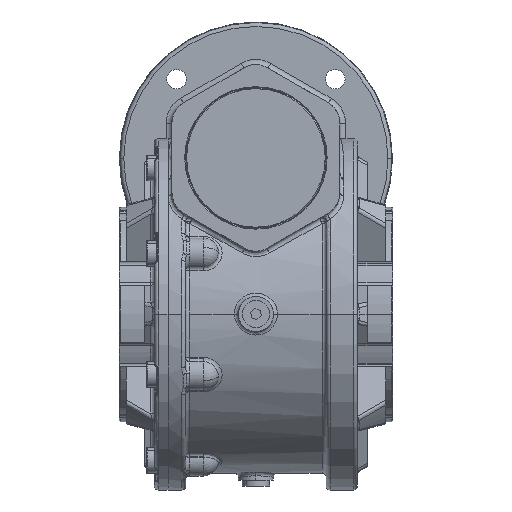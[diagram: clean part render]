
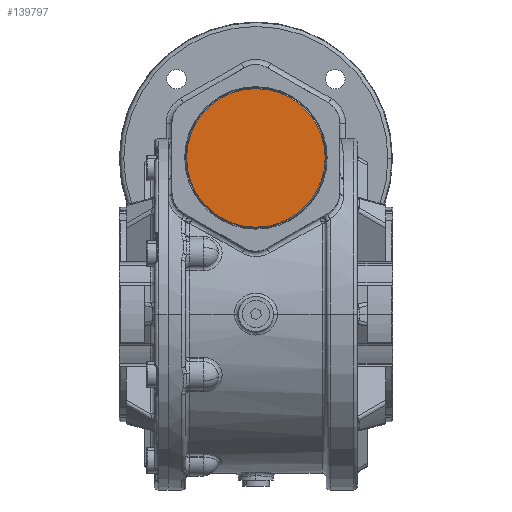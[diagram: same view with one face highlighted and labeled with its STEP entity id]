
A CAD part, top view. The second image highlights one B-rep face of the part: STEP entity #139797.
In plain terms, the highlighted planar face has unit normal (0, 0, 1).
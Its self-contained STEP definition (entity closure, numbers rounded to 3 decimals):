
#138953 = EDGE_CURVE ( 'NONE', #138957, #138981, #158596, .T. ) ;
#138957 = VERTEX_POINT ( 'NONE', #158590 ) ;
#138981 = VERTEX_POINT ( 'NONE', #158587 ) ;
#139630 = EDGE_CURVE ( 'NONE', #138981, #138957, #159078, .T. ) ;
#139797 = ADVANCED_FACE ( 'NONE', ( #159183 ), #159182, .T. ) ;
#139801 = EDGE_LOOP ( 'NONE', ( #139810, #139813 ) ) ;
#139810 = ORIENTED_EDGE ( 'NONE', *, *, #138953, .F. ) ;
#139813 = ORIENTED_EDGE ( 'NONE', *, *, #139630, .F. ) ;
#158587 = CARTESIAN_POINT ( 'NONE',  ( -6.133, 27.563, 95. ) ) ;
#158590 = CARTESIAN_POINT ( 'NONE',  ( -6.133, 98.563, 95. ) ) ;
#158592 = DIRECTION ( 'NONE',  ( 0., 1., 0. ) ) ;
#158593 = DIRECTION ( 'NONE',  ( 0., 0., -1. ) ) ;
#158594 = CARTESIAN_POINT ( 'NONE',  ( -6.133, 63.063, 95. ) ) ;
#158595 = AXIS2_PLACEMENT_3D ( 'NONE', #158594, #158593, #158592 ) ;
#158596 = CIRCLE ( 'NONE', #158595, 35.5 ) ;
#159074 = DIRECTION ( 'NONE',  ( 0., 1., 0. ) ) ;
#159075 = DIRECTION ( 'NONE',  ( 0., 0., -1. ) ) ;
#159076 = CARTESIAN_POINT ( 'NONE',  ( -6.133, 63.063, 95. ) ) ;
#159077 = AXIS2_PLACEMENT_3D ( 'NONE', #159076, #159075, #159074 ) ;
#159078 = CIRCLE ( 'NONE', #159077, 35.5 ) ;
#159178 = DIRECTION ( 'NONE',  ( 0., -1., 0. ) ) ;
#159179 = DIRECTION ( 'NONE',  ( 0., 0., 1. ) ) ;
#159180 = CARTESIAN_POINT ( 'NONE',  ( -6.133, 63.063, 95. ) ) ;
#159181 = AXIS2_PLACEMENT_3D ( 'NONE', #159180, #159179, #159178 ) ;
#159182 = PLANE ( 'NONE',  #159181 ) ;
#159183 = FACE_OUTER_BOUND ( 'NONE', #139801, .T. ) ;
